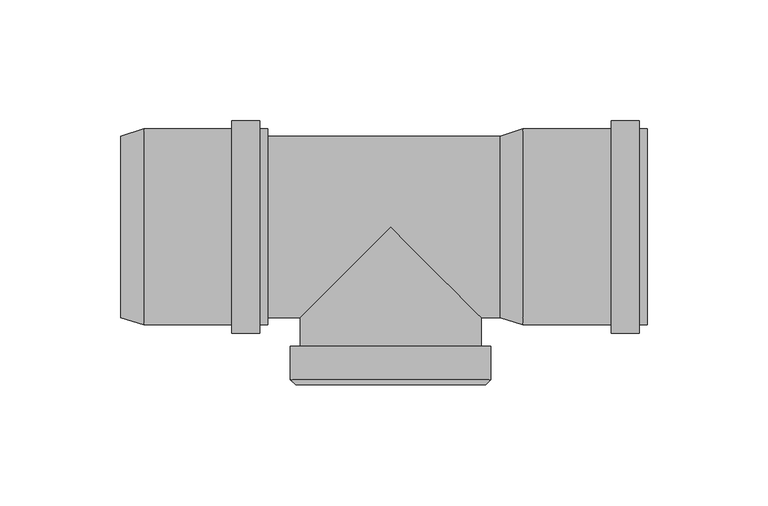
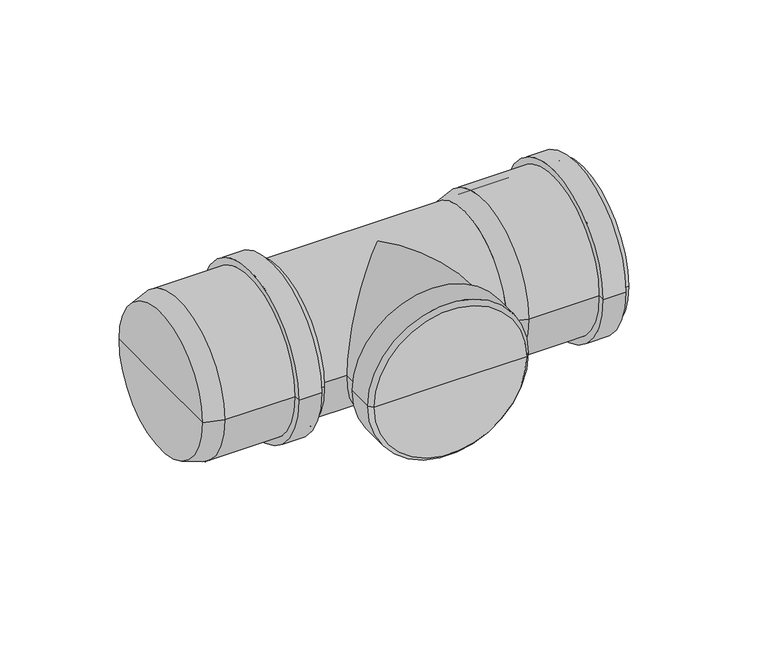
"""IFC4 building model written with IfcOpenShell, lengths in millimetres: pipe fitting geometry, pf_HTRE : pf_HTRE."""

import ifcopenshell
import ifcopenshell.guid

model = None  # the IFC model being written
_history = None  # IfcOwnerHistory: only IFC2X3 demands one
_inside = {}  # id of a spatial element -> (the spatial element, [elements in it])
_under = {}  # id of a project, library or spatial element -> (it, [spatial elements below it])
_declared = {}  # id of a project -> (the project, [libraries it declares])
_typed = {}  # id of a type object -> (the type object, [elements of that type])
_made_of = {}  # id of a material, layer set ... -> (it, [elements and type objects made of it])


def new_model(schema):
    """Start an empty IFC model of exactly this schema.

    Asked for "IFC4X3", IfcOpenShell would pick the latest addendum, in which some entities
    have other attributes; the version numbers below select the first issue.
    IFC2X3 requires an IfcOwnerHistory on every rooted entity: one is made here for all.
    """
    global model, _history
    if schema == "IFC4X3":
        model = ifcopenshell.file(schema_version=(4, 3, 0, 0))
    else:
        model = ifcopenshell.file(schema=schema)
    _inside.clear()
    _under.clear()
    _declared.clear()
    _typed.clear()
    _made_of.clear()
    _history = None
    if model.schema == "IFC2X3":
        org = make("IfcOrganization", Name="unknown")
        user = make(
            "IfcPersonAndOrganization",
            ThePerson=make("IfcPerson", FamilyName="unknown"),
            TheOrganization=org,
        )
        app = make(
            "IfcApplication",
            ApplicationDeveloper=org,
            Version="unknown",
            ApplicationFullName="unknown",
            ApplicationIdentifier="unknown",
        )
        _history = make(
            "IfcOwnerHistory",
            OwningUser=user,
            OwningApplication=app,
            ChangeAction="ADDED",
            CreationDate=0,
        )
    return model


def make(cls, **values):
    """One entity of the class cls with the attributes given. An attribute that is None is left unset."""
    return model.create_entity(
        cls, **{name: value for name, value in values.items() if value is not None}
    )


def rooted(cls, **values):
    """An entity with a GlobalId (a new one), such as an element, a storey or a relation."""
    return make(cls, GlobalId=ifcopenshell.guid.new(), OwnerHistory=_history, **values)


def si_unit(unit_type, name, prefix=None):
    """IfcSIUnit, for example si_unit("LENGTHUNIT", "METRE", prefix="MILLI")."""
    return make("IfcSIUnit", UnitType=unit_type, Prefix=prefix, Name=name)


def assignment(units):
    """IfcUnitAssignment: the units of a project."""
    return None if units is None else make("IfcUnitAssignment", Units=units)


def point(xyz):
    """IfcCartesianPoint."""
    return None if xyz is None else make("IfcCartesianPoint", Coordinates=xyz)


def direction(xyz):
    """IfcDirection."""
    return None if xyz is None else make("IfcDirection", DirectionRatios=xyz)


def frame(location, z_axis=None, x_axis=None):
    """IfcAxis2Placement3D, a coordinate frame: its origin and axes. An axis left out is left unset."""
    return make(
        "IfcAxis2Placement3D",
        Location=point(location),
        Axis=direction(z_axis),
        RefDirection=direction(x_axis),
    )


def origin():
    """The frame at (0, 0, 0) with its axes left unset."""
    return frame((0.0, 0.0, 0.0))


def place(relative_to, where):
    """IfcLocalPlacement: puts the frame where relative to a parent placement (None: the world)."""
    return make(
        "IfcLocalPlacement", PlacementRelTo=relative_to, RelativePlacement=where
    )


def context(
    kind, dimensions, precision=None, world=None, true_north=None, identifier=None
):
    """IfcGeometricRepresentationContext, for example the 3D "Model" context."""
    return make(
        "IfcGeometricRepresentationContext",
        ContextIdentifier=identifier,
        ContextType=kind,
        CoordinateSpaceDimension=dimensions,
        Precision=precision,
        WorldCoordinateSystem=world,
        TrueNorth=true_north,
    )


def project(units=None, contexts=None):
    """IfcProject with its units and contexts."""
    return rooted(
        "IfcProject",
        Name="project",
        RepresentationContexts=contexts,
        UnitsInContext=assignment(units),
    )


def spatial(cls, under=None, at=None, **own):
    """A site, building, storey or space (cls), placed at a placement, below another one or the project."""
    s = rooted(cls, ObjectPlacement=at, **own)
    if under is not None:
        _under.setdefault(under.id(), (under, []))[1].append(s)
    return s


def polyline(points):
    """IfcPolyline through the points."""
    return make("IfcPolyline", Points=[point(p) for p in points])


def circle_curve(where, radius):
    """IfcCircle in the frame where."""
    return make("IfcCircle", Position=where, Radius=radius)


def ellipse_curve(where, semi_axis1, semi_axis2):
    """IfcEllipse in the frame where."""
    return make(
        "IfcEllipse", Position=where, SemiAxis1=semi_axis1, SemiAxis2=semi_axis2
    )


def shape(context_of_items, identifier, shape_type, items):
    """IfcShapeRepresentation: the items that make up one representation, for example the "Body"."""
    return make(
        "IfcShapeRepresentation",
        ContextOfItems=context_of_items,
        RepresentationIdentifier=identifier,
        RepresentationType=shape_type,
        Items=items,
    )


def source(mapping_origin, context_of_items, identifier, shape_type, items):
    """IfcRepresentationMap: a shape defined once, which mapped items show again and again."""
    return make(
        "IfcRepresentationMap",
        MappingOrigin=mapping_origin,
        MappedRepresentation=shape(context_of_items, identifier, shape_type, items),
    )


def transform(
    local_origin,
    x_axis=None,
    y_axis=None,
    z_axis=None,
    scale=None,
    scale2=None,
    scale3=None,
    uniform=True,
):
    """IfcCartesianTransformationOperator3D, or its non-uniform kind. x_axis, y_axis, z_axis: its Axis1, 2, 3."""
    if uniform:
        return make(
            "IfcCartesianTransformationOperator3D",
            Axis1=direction(x_axis),
            Axis2=direction(y_axis),
            LocalOrigin=point(local_origin),
            Scale=scale,
            Axis3=direction(z_axis),
        )
    return make(
        "IfcCartesianTransformationOperator3DnonUniform",
        Axis1=direction(x_axis),
        Axis2=direction(y_axis),
        LocalOrigin=point(local_origin),
        Scale=scale,
        Axis3=direction(z_axis),
        Scale2=scale2,
        Scale3=scale3,
    )


def mapped(mapping_source, mapping_target):
    """IfcMappedItem: shows the shape of a source again, moved by a transform."""
    return make(
        "IfcMappedItem", MappingSource=mapping_source, MappingTarget=mapping_target
    )


def made_of(thing, what):
    """Note that an element or type object is made of a material, layer set ...; save() writes the relation."""
    if what is not None:
        _made_of.setdefault(what.id(), (what, []))[1].append(thing)
    return thing


def element(
    cls,
    number,
    at=None,
    inside=None,
    cuts=None,
    type_object=None,
    material=None,
    context=None,
    identifier="Body",
    shape_type=None,
    held_by="IfcProductDefinitionShape",
    body=None,
    shapes=None,
    **own,
):
    """One element of the class cls, such as IfcWall. Its Tag is "e" and its number.

    at: its placement. inside: the storey or other place that contains it. cuts: it is an
    opening in that element (IfcRelVoidsElement). A single representation is given by context,
    identifier, shape_type and body (its items); several are given by shapes. held_by: the class
    of the entity that holds the representations. save() writes the other relations.
    """
    e = rooted(cls, Tag="e%d" % number, ObjectPlacement=at, **own)
    if body is not None:
        shapes = [shape(context, identifier, shape_type, body)]
    if shapes is not None:
        e.Representation = make(held_by, Representations=shapes)
    if inside is not None:
        _inside.setdefault(inside.id(), (inside, []))[1].append(e)
    if cuts is not None:
        rooted(
            "IfcRelVoidsElement", RelatingBuildingElement=cuts, RelatedOpeningElement=e
        )
    if type_object is not None:
        _typed.setdefault(type_object.id(), (type_object, []))[1].append(e)
    return made_of(e, material)


def aggregate(whole, parts):
    """IfcRelAggregates: a whole, such as a stair, and the parts it consists of."""
    return rooted("IfcRelAggregates", RelatingObject=whole, RelatedObjects=parts)


def save(model, path):
    """Write the relations noted so far, then the file.

    IfcRelAggregates (storeys below a building ...), IfcRelContainedInSpatialStructure (elements
    in a storey), IfcRelDefinesByType, IfcRelAssociatesMaterial and IfcRelDeclares: one each for
    every whole, place, type object, material and project.
    """
    for whole, parts in _under.values():
        aggregate(whole, parts)
    for where, things in _inside.values():
        rooted(
            "IfcRelContainedInSpatialStructure",
            RelatedElements=things,
            RelatingStructure=where,
        )
    for kind, things in _typed.values():
        rooted("IfcRelDefinesByType", RelatedObjects=things, RelatingType=kind)
    for what, things in _made_of.values():
        rooted("IfcRelAssociatesMaterial", RelatedObjects=things, RelatingMaterial=what)
    for by, libraries in _declared.values():
        rooted("IfcRelDeclares", RelatingContext=by, RelatedDefinitions=libraries)
    model.write(path)


def plane_surface(at):
    """IfcPlane: the flat surface through the origin of the frame at, square to its z axis."""
    return make("IfcPlane", Position=at)


def cylinder_surface(at, radius):
    """IfcCylindricalSurface: all points at the distance radius from the z axis of the frame at."""
    return make("IfcCylindricalSurface", Position=at, Radius=radius)


def revolved_surface(curve, axis_point, axis_direction):
    """IfcSurfaceOfRevolution: the curve turned about the line through axis_point along axis_direction."""
    return make(
        "IfcSurfaceOfRevolution",
        SweptCurve=make("IfcArbitraryOpenProfileDef", ProfileType="CURVE", Curve=curve),
        AxisPosition=make("IfcAxis1Placement", Location=point(axis_point), Axis=direction(axis_direction)),
    )


def advanced_brep(points, edges, surfaces, faces):
    """IfcAdvancedBrep: a solid bounded by faces that lie on surfaces and meet in shared edges.

    An edge is (start, end): straight between two places in points (the first is 0);
    or (start, end, curve); or (start, end, curve, False) where it runs against its curve.
    A face is (place in surfaces, loops), or (place, loops, False) where it looks against
    its surface's normal. A loop lists edges by number (the first is 1), with a minus sign
    where the edge is run from its end to its start. The first loop is the outer one.
    """
    corners = [point(p) for p in points]
    vertices = [make("IfcVertexPoint", VertexGeometry=c) for c in corners]
    made = []
    for start, end, *more in edges:
        made.append(
            make(
                "IfcEdgeCurve",
                EdgeStart=vertices[start],
                EdgeEnd=vertices[end],
                EdgeGeometry=more[0] if more else make("IfcPolyline", Points=[corners[start], corners[end]]),
                SameSense=more[1] if len(more) > 1 else True,
            )
        )
    hull = []
    for where, loops, *sense in faces:
        bounds = []
        for j, loop in enumerate(loops):
            ring = [make("IfcOrientedEdge", EdgeElement=made[abs(k) - 1], Orientation=k > 0) for k in loop]
            bounds.append(
                make(
                    "IfcFaceOuterBound" if j == 0 else "IfcFaceBound",
                    Bound=make("IfcEdgeLoop", EdgeList=ring),
                    Orientation=True,
                )
            )
        hull.append(make("IfcAdvancedFace", Bounds=bounds, FaceSurface=surfaces[where], SameSense=sense[0] if sense else True))
    return make("IfcAdvancedBrep", Outer=make("IfcClosedShell", CfsFaces=hull))


def pipe_fitting_7ade68ef(model_context):
    return source(origin(), model_context, "Body", "AdvancedBrep", [
        advanced_brep(
        [(45.3, -37.5, 0.0), (45.3, 37.5, 0.0), (54.8, 40.6, 0.0), (54.8, -40.6, 0.0), (45.3, 0.0, 0.0), (106.3, -40.6, 0.0), (106.3, 40.6, 0.0), (106.3, 37.5, 0.0), (106.3, -37.5, 0.0), (102.9, -40.6, 0.0), (102.9, 40.6, 0.0), (102.9, -44.0, 0.0), (102.9, 44.0, 0.0), (91.3, -44.0, 0.0), (91.3, 44.0, 0.0), (91.3, -40.6, 0.0), (91.3, 40.6, 0.0), (54.8, -37.5, 0.0), (54.8, 37.5, 0.0), (54.8, 0.0, 0.0)],
        [
            (0, 1, circle_curve(frame((45.3, 0.0, 0.0), z_axis=(1.0, 0.0, 0.0), x_axis=(0.0, 1.0, 0.0)), 37.5)),
            (1, 2),
            (2, 3, circle_curve(frame((54.8, 0.0, 0.0), z_axis=(-1.0, 0.0, 0.0), x_axis=(0.0, 1.0, 0.0)), 40.6)),
            (3, 0),
            (1, 0, circle_curve(frame((45.3, 0.0, 0.0), z_axis=(1.0, 0.0, 0.0), x_axis=(0.0, 1.0, 0.0)), 37.5)),
            (3, 2, circle_curve(frame((54.8, 0.0, 0.0), z_axis=(-1.0, 0.0, 0.0), x_axis=(0.0, 1.0, 0.0)), 40.6)),
            (4, 1),
            (0, 4),
            (5, 6, circle_curve(frame((106.3, 0.0, 0.0), z_axis=(1.0, 0.0, 0.0), x_axis=(0.0, 1.0, 0.0)), 40.6)),
            (6, 7),
            (7, 8, circle_curve(frame((106.3, 0.0, 0.0), z_axis=(-1.0, 0.0, 0.0), x_axis=(0.0, 1.0, 0.0)), 37.5)),
            (8, 5),
            (6, 5, circle_curve(frame((106.3, 0.0, 0.0), z_axis=(1.0, 0.0, 0.0), x_axis=(0.0, 1.0, 0.0)), 40.6)),
            (8, 7, circle_curve(frame((106.3, 0.0, 0.0), z_axis=(-1.0, 0.0, 0.0), x_axis=(0.0, 1.0, 0.0)), 37.5)),
            (9, 10, circle_curve(frame((102.9, 0.0, 0.0), z_axis=(1.0, 0.0, 0.0), x_axis=(0.0, 1.0, 0.0)), 40.6)),
            (10, 6),
            (5, 9),
            (10, 9, circle_curve(frame((102.9, 0.0, 0.0), z_axis=(1.0, 0.0, 0.0), x_axis=(0.0, 1.0, 0.0)), 40.6)),
            (11, 12, circle_curve(frame((102.9, 0.0, 0.0), z_axis=(1.0, 0.0, 0.0), x_axis=(0.0, 1.0, 0.0)), 44.0)),
            (12, 10),
            (9, 11),
            (12, 11, circle_curve(frame((102.9, 0.0, 0.0), z_axis=(1.0, 0.0, 0.0), x_axis=(0.0, 1.0, 0.0)), 44.0)),
            (13, 14, circle_curve(frame((91.3, 0.0, 0.0), z_axis=(1.0, 0.0, 0.0), x_axis=(0.0, 1.0, 0.0)), 44.0)),
            (14, 12),
            (11, 13),
            (14, 13, circle_curve(frame((91.3, 0.0, 0.0), z_axis=(1.0, 0.0, 0.0), x_axis=(0.0, 1.0, 0.0)), 44.0)),
            (15, 16, circle_curve(frame((91.3, 0.0, 0.0), z_axis=(1.0, 0.0, 0.0), x_axis=(0.0, 1.0, 0.0)), 40.6)),
            (16, 14),
            (13, 15),
            (16, 15, circle_curve(frame((91.3, 0.0, 0.0), z_axis=(1.0, 0.0, 0.0), x_axis=(0.0, 1.0, 0.0)), 40.6)),
            (2, 16),
            (15, 3),
            (17, 18, circle_curve(frame((54.8, 0.0, 0.0), z_axis=(1.0, 0.0, 0.0), x_axis=(0.0, 1.0, 0.0)), 37.5)),
            (18, 19),
            (19, 17),
            (18, 17, circle_curve(frame((54.8, 0.0, 0.0), z_axis=(1.0, 0.0, 0.0), x_axis=(0.0, 1.0, 0.0)), 37.5)),
            (7, 18),
            (17, 8),
        ],
        [
            revolved_surface(polyline([(54.8, 40.6, 0.0), (45.3, 37.5, 0.0)]), (45.3, 0.0, 0.0), (-1.0, 0.0, 0.0)),
            plane_surface(frame((45.3, 0.0, 0.0), z_axis=(-1.0, 0.0, 0.0), x_axis=(0.0, 1.0, 0.0))),
            plane_surface(frame((106.3, 0.0, 0.0), z_axis=(1.0, 0.0, 0.0), x_axis=(0.0, 1.0, 0.0))),
            cylinder_surface(frame((45.3, 0.0, 0.0), z_axis=(-1.0, 0.0, 0.0), x_axis=(0.0, 1.0, 0.0)), 40.6),
            plane_surface(frame((102.9, 0.0, 0.0), z_axis=(1.0, 0.0, 0.0), x_axis=(0.0, 1.0, 0.0))),
            cylinder_surface(frame((45.3, 0.0, 0.0), z_axis=(-1.0, 0.0, 0.0), x_axis=(0.0, 1.0, 0.0)), 44.0),
            plane_surface(frame((91.3, 0.0, 0.0), z_axis=(-1.0, 0.0, 0.0), x_axis=(0.0, 1.0, 0.0))),
            plane_surface(frame((54.8, 0.0, 0.0), z_axis=(1.0, 0.0, 0.0), x_axis=(0.0, 1.0, 0.0))),
            revolved_surface(polyline([(54.8, 37.5, 0.0), (106.3, 37.5, 0.0)]), (45.3, 0.0, 0.0), (-1.0, 0.0, 0.0)),
        ],
        [
            (0, [[1, 2, 3, 4]]),
            (0, [[5, -4, 6, -2]]),
            (1, [[7, -1, 8]]),
            (1, [[-8, -5, -7]]),
            (2, [[9, 10, 11, 12]]),
            (2, [[13, -12, 14, -10]]),
            (3, [[15, 16, -9, 17]]),
            (3, [[18, -17, -13, -16]]),
            (4, [[19, 20, -15, 21]]),
            (4, [[22, -21, -18, -20]]),
            (5, [[23, 24, -19, 25]]),
            (5, [[26, -25, -22, -24]]),
            (6, [[27, 28, -23, 29]]),
            (6, [[30, -29, -26, -28]]),
            (3, [[-3, 31, -27, 32]]),
            (3, [[-6, -32, -30, -31]]),
            (7, [[33, 34, 35]]),
            (7, [[36, -35, -34]]),
            (8, [[-11, 37, -33, 38]]),
            (8, [[-14, -38, -36, -37]]),
        ],
    ),
        advanced_brep(
        [(-111.8, -37.5, 0.0), (-111.8, 37.5, 0.0), (-102.3, 40.6, 0.0), (-102.3, -40.6, 0.0), (-111.8, 0.0, 0.0), (-50.8, -40.6, 0.0), (-50.8, 40.6, 0.0), (-50.8, 37.5, 0.0), (-50.8, -37.5, 0.0), (-54.2, -40.6, 0.0), (-54.2, 40.6, 0.0), (-54.2, -44.0, 0.0), (-54.2, 44.0, 0.0), (-65.8, -44.0, 0.0), (-65.8, 44.0, 0.0), (-65.8, -40.6, 0.0), (-65.8, 40.6, 0.0), (-102.3, -37.5, 0.0), (-102.3, 37.5, 0.0), (-102.3, 0.0, 0.0)],
        [
            (0, 1, circle_curve(frame((-111.8, 0.0, 0.0), z_axis=(1.0, 0.0, 0.0), x_axis=(0.0, 1.0, 0.0)), 37.5)),
            (1, 2),
            (2, 3, circle_curve(frame((-102.3, 0.0, 0.0), z_axis=(-1.0, 0.0, 0.0), x_axis=(0.0, 1.0, 0.0)), 40.6)),
            (3, 0),
            (1, 0, circle_curve(frame((-111.8, 0.0, 0.0), z_axis=(1.0, 0.0, 0.0), x_axis=(0.0, 1.0, 0.0)), 37.5)),
            (3, 2, circle_curve(frame((-102.3, 0.0, 0.0), z_axis=(-1.0, 0.0, 0.0), x_axis=(0.0, 1.0, 0.0)), 40.6)),
            (4, 1),
            (0, 4),
            (5, 6, circle_curve(frame((-50.8, 0.0, 0.0), z_axis=(1.0, 0.0, 0.0), x_axis=(0.0, 1.0, 0.0)), 40.6)),
            (6, 7),
            (7, 8, circle_curve(frame((-50.8, 0.0, 0.0), z_axis=(-1.0, 0.0, 0.0), x_axis=(0.0, 1.0, 0.0)), 37.5)),
            (8, 5),
            (6, 5, circle_curve(frame((-50.8, 0.0, 0.0), z_axis=(1.0, 0.0, 0.0), x_axis=(0.0, 1.0, 0.0)), 40.6)),
            (8, 7, circle_curve(frame((-50.8, 0.0, 0.0), z_axis=(-1.0, 0.0, 0.0), x_axis=(0.0, 1.0, 0.0)), 37.5)),
            (9, 10, circle_curve(frame((-54.2, 0.0, 0.0), z_axis=(1.0, 0.0, 0.0), x_axis=(0.0, 1.0, 0.0)), 40.6)),
            (10, 6),
            (5, 9),
            (10, 9, circle_curve(frame((-54.2, 0.0, 0.0), z_axis=(1.0, 0.0, 0.0), x_axis=(0.0, 1.0, 0.0)), 40.6)),
            (11, 12, circle_curve(frame((-54.2, 0.0, 0.0), z_axis=(1.0, 0.0, 0.0), x_axis=(0.0, 1.0, 0.0)), 44.0)),
            (12, 10),
            (9, 11),
            (12, 11, circle_curve(frame((-54.2, 0.0, 0.0), z_axis=(1.0, 0.0, 0.0), x_axis=(0.0, 1.0, 0.0)), 44.0)),
            (13, 14, circle_curve(frame((-65.8, 0.0, 0.0), z_axis=(1.0, 0.0, 0.0), x_axis=(0.0, 1.0, 0.0)), 44.0)),
            (14, 12),
            (11, 13),
            (14, 13, circle_curve(frame((-65.8, 0.0, 0.0), z_axis=(1.0, 0.0, 0.0), x_axis=(0.0, 1.0, 0.0)), 44.0)),
            (15, 16, circle_curve(frame((-65.8, 0.0, 0.0), z_axis=(1.0, 0.0, 0.0), x_axis=(0.0, 1.0, 0.0)), 40.6)),
            (16, 14),
            (13, 15),
            (16, 15, circle_curve(frame((-65.8, 0.0, 0.0), z_axis=(1.0, 0.0, 0.0), x_axis=(0.0, 1.0, 0.0)), 40.6)),
            (2, 16),
            (15, 3),
            (17, 18, circle_curve(frame((-102.3, 0.0, 0.0), z_axis=(1.0, 0.0, 0.0), x_axis=(0.0, 1.0, 0.0)), 37.5)),
            (18, 19),
            (19, 17),
            (18, 17, circle_curve(frame((-102.3, 0.0, 0.0), z_axis=(1.0, 0.0, 0.0), x_axis=(0.0, 1.0, 0.0)), 37.5)),
            (7, 18),
            (17, 8),
        ],
        [
            revolved_surface(polyline([(-102.3, 40.6, 0.0), (-111.8, 37.5, 0.0)]), (-111.8, 0.0, 0.0), (-1.0, 0.0, 0.0)),
            plane_surface(frame((-111.8, 0.0, 0.0), z_axis=(-1.0, 0.0, 0.0), x_axis=(0.0, 1.0, 0.0))),
            plane_surface(frame((-50.8, 0.0, 0.0), z_axis=(1.0, 0.0, 0.0), x_axis=(0.0, 1.0, 0.0))),
            cylinder_surface(frame((-111.8, 0.0, 0.0), z_axis=(-1.0, 0.0, 0.0), x_axis=(0.0, 1.0, 0.0)), 40.6),
            plane_surface(frame((-54.2, 0.0, 0.0), z_axis=(1.0, 0.0, 0.0), x_axis=(0.0, 1.0, 0.0))),
            cylinder_surface(frame((-111.8, 0.0, 0.0), z_axis=(-1.0, 0.0, 0.0), x_axis=(0.0, 1.0, 0.0)), 44.0),
            plane_surface(frame((-65.8, 0.0, 0.0), z_axis=(-1.0, 0.0, 0.0), x_axis=(0.0, 1.0, 0.0))),
            plane_surface(frame((-102.3, 0.0, 0.0), z_axis=(1.0, 0.0, 0.0), x_axis=(0.0, 1.0, 0.0))),
            revolved_surface(polyline([(-102.3, 37.5, 0.0), (-50.8, 37.5, 0.0)]), (-111.8, 0.0, 0.0), (-1.0, 0.0, 0.0)),
        ],
        [
            (0, [[1, 2, 3, 4]]),
            (0, [[5, -4, 6, -2]]),
            (1, [[7, -1, 8]]),
            (1, [[-8, -5, -7]]),
            (2, [[9, 10, 11, 12]]),
            (2, [[13, -12, 14, -10]]),
            (3, [[15, 16, -9, 17]]),
            (3, [[18, -17, -13, -16]]),
            (4, [[19, 20, -15, 21]]),
            (4, [[22, -21, -18, -20]]),
            (5, [[23, 24, -19, 25]]),
            (5, [[26, -25, -22, -24]]),
            (6, [[27, 28, -23, 29]]),
            (6, [[30, -29, -26, -28]]),
            (3, [[-3, 31, -27, 32]]),
            (3, [[-6, -32, -30, -31]]),
            (7, [[33, 34, 35]]),
            (7, [[36, -35, -34]]),
            (8, [[-11, 37, -33, 38]]),
            (8, [[-14, -38, -36, -37]]),
        ],
    ),
        advanced_brep(
        [(0.0, -60.9, 0.0), (37.5, -60.9, 0.0), (-37.5, -60.9, 0.0), (-39.3547233, -65.3866797, 0.0), (39.3547233, -65.3866797, 0.0), (0.0, -65.3866797, 0.0), (-41.5, -63.241403, 0.0), (41.5, -63.241403, 0.0), (-41.5, -49.31835, 0.0), (41.5, -49.31835, 0.0), (-37.5, -49.31835, 0.0), (37.5, -49.31835, 0.0)],
        [
            (0, 1),
            (1, 2, circle_curve(frame((0.0, -60.9, 0.0), z_axis=(0.0, 1.0, 0.0), x_axis=(1.0, 0.0, 0.0)), 37.5)),
            (2, 0),
            (2, 1, circle_curve(frame((0.0, -60.9, 0.0), z_axis=(0.0, 1.0, 0.0), x_axis=(1.0, 0.0, 0.0)), 37.5)),
            (3, 4, circle_curve(frame((0.0, -65.3866797, 0.0), z_axis=(0.0, -1.0, 0.0), x_axis=(1.0, 0.0, 0.0)), 39.3547233)),
            (4, 5),
            (5, 3),
            (4, 3, circle_curve(frame((0.0, -65.3866797, 0.0), z_axis=(0.0, -1.0, 0.0), x_axis=(1.0, 0.0, 0.0)), 39.3547233)),
            (6, 7, circle_curve(frame((0.0, -63.241403, 0.0), z_axis=(0.0, -1.0, 0.0), x_axis=(1.0, 0.0, 0.0)), 41.5)),
            (7, 4),
            (3, 6),
            (7, 6, circle_curve(frame((0.0, -63.241403, 0.0), z_axis=(0.0, -1.0, 0.0), x_axis=(1.0, 0.0, 0.0)), 41.5)),
            (8, 9, circle_curve(frame((0.0, -49.31835, 0.0), z_axis=(0.0, -1.0, 0.0), x_axis=(1.0, 0.0, 0.0)), 41.5)),
            (9, 7),
            (6, 8),
            (9, 8, circle_curve(frame((0.0, -49.31835, 0.0), z_axis=(0.0, -1.0, 0.0), x_axis=(1.0, 0.0, 0.0)), 41.5)),
            (10, 11, circle_curve(frame((0.0, -49.31835, 0.0), z_axis=(0.0, -1.0, 0.0), x_axis=(1.0, 0.0, 0.0)), 37.5)),
            (11, 9),
            (8, 10),
            (11, 10, circle_curve(frame((0.0, -49.31835, 0.0), z_axis=(0.0, -1.0, 0.0), x_axis=(1.0, 0.0, 0.0)), 37.5)),
            (1, 11),
            (10, 2),
        ],
        [
            plane_surface(frame((0.0, -60.9, 0.0), z_axis=(0.0, 1.0, 0.0), x_axis=(1.0, 0.0, 0.0))),
            plane_surface(frame((0.0, -65.3866797, 0.0), z_axis=(0.0, -1.0, 0.0), x_axis=(1.0, 0.0, 0.0))),
            revolved_surface(polyline([(39.3547233, -65.3866797, 0.0), (41.5, -63.241403, 0.0)]), (0.0, 0.0, 0.0), (0.0, 1.0, 0.0)),
            cylinder_surface(frame((0.0, 0.0, 0.0), z_axis=(0.0, 1.0, 0.0), x_axis=(1.0, 0.0, 0.0)), 41.5),
            plane_surface(frame((0.0, -49.31835, 0.0), z_axis=(0.0, 1.0, 0.0), x_axis=(1.0, 0.0, 0.0))),
            revolved_surface(polyline([(37.5, -49.31835, 0.0), (37.5, -60.9, 0.0)]), (0.0, 0.0, 0.0), (0.0, 1.0, 0.0)),
        ],
        [
            (0, [[1, 2, 3]]),
            (0, [[-3, 4, -1]]),
            (1, [[5, 6, 7]]),
            (1, [[8, -7, -6]]),
            (2, [[9, 10, -5, 11]]),
            (2, [[12, -11, -8, -10]]),
            (3, [[13, 14, -9, 15]]),
            (3, [[16, -15, -12, -14]]),
            (4, [[17, 18, -13, 19]]),
            (4, [[20, -19, -16, -18]]),
            (5, [[-2, 21, -17, 22]]),
            (5, [[-4, -22, -20, -21]]),
        ],
    ),
        advanced_brep(
        [(-50.8, -37.5, 0.0), (-50.8, 37.5, 0.0), (45.3, -37.5, 0.0), (45.3, 37.5, 0.0), (-37.5, -37.5, 0.0), (0.0, 0.0, 37.5), (37.5, -37.5, 0.0), (0.0, 0.0, -37.5), (-37.5, -60.9, 0.0), (37.5, -60.9, 0.0)],
        [
            (0, 1, circle_curve(frame((-50.8, 0.0, 0.0), z_axis=(-1.0, 0.0, 0.0), x_axis=(0.0, 1.0, 0.0)), 37.5)),
            (1, 0, circle_curve(frame((-50.8, 0.0, 0.0), z_axis=(-1.0, 0.0, 0.0), x_axis=(0.0, 1.0, 0.0)), 37.5)),
            (2, 3, circle_curve(frame((45.3, 0.0, 0.0), z_axis=(1.0, 0.0, 0.0), x_axis=(0.0, 1.0, 0.0)), 37.5)),
            (3, 2, circle_curve(frame((45.3, 0.0, 0.0), z_axis=(1.0, 0.0, 0.0), x_axis=(0.0, 1.0, 0.0)), 37.5)),
            (0, 4),
            (4, 5, ellipse_curve(frame((0.0, 0.0, 0.0), z_axis=(-0.7071067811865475, 0.7071067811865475, 0.0), x_axis=(-0.7071067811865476, -0.7071067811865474, 0.0)), 53.0330086, 37.5)),
            (5, 6, ellipse_curve(frame((0.0, 0.0, 0.0), z_axis=(0.7071067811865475, 0.7071067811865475, 0.0), x_axis=(-0.7071067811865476, 0.7071067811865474, 0.0)), 53.0330086, 37.5)),
            (6, 2),
            (3, 1),
            (6, 7, ellipse_curve(frame((0.0, 0.0, 0.0), z_axis=(0.7071067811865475, 0.7071067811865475, 0.0), x_axis=(-0.7071067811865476, 0.7071067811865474, 0.0)), 53.0330086, 37.5)),
            (7, 4, ellipse_curve(frame((0.0, 0.0, 0.0), z_axis=(-0.7071067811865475, 0.7071067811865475, 0.0), x_axis=(-0.7071067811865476, -0.7071067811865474, 0.0)), 53.0330086, 37.5)),
            (8, 9, circle_curve(frame((0.0, -60.9, 0.0), z_axis=(0.0, -1.0, 0.0), x_axis=(1.0, 0.0, 0.0)), 37.5)),
            (9, 8, circle_curve(frame((0.0, -60.9, 0.0), z_axis=(0.0, -1.0, 0.0), x_axis=(1.0, 0.0, 0.0)), 37.5)),
            (9, 6),
            (4, 8),
        ],
        [
            plane_surface(frame((-50.8, 0.0, 0.0), z_axis=(-1.0, 0.0, 0.0), x_axis=(0.0, 0.0, 1.0))),
            plane_surface(frame((45.3, 0.0, 0.0), z_axis=(1.0, 0.0, 0.0), x_axis=(0.0, 0.0, 1.0))),
            cylinder_surface(frame((-50.8, 0.0, 0.0), z_axis=(-1.0, 0.0, 0.0), x_axis=(0.0, 1.0, 0.0)), 37.5),
            plane_surface(frame((0.0, -60.9, 0.0), z_axis=(0.0, -1.0, 0.0), x_axis=(0.0, 0.0, 1.0))),
            cylinder_surface(frame((0.0, 0.0, 0.0), z_axis=(0.0, 1.0, 0.0), x_axis=(1.0, 0.0, 0.0)), 37.5),
        ],
        [
            (0, [[1, 2]]),
            (1, [[3, 4]]),
            (2, [[-1, 5, 6, 7, 8, -4, 9]]),
            (2, [[-2, -9, -3, -8, 10, 11, -5]]),
            (3, [[12, 13]]),
            (4, [[-13, 14, -7, -6, 15]]),
            (4, [[-12, -15, -11, -10, -14]]),
        ],
    ),
    ])


if __name__ == "__main__":
    model = new_model("IFC4")
    model_context = context("Model", 3, world=origin())
    ifc_project = project(units=[si_unit("LENGTHUNIT", "METRE", prefix="MILLI")], contexts=[model_context])
    site = spatial("IfcSite", under=ifc_project)
    building = spatial("IfcBuilding", under=site)
    placement = place(None, origin())
    pipe_fitting_shape = pipe_fitting_7ade68ef(model_context)
    element("IfcPipeFitting", 1, ObjectType="pf_HTRE : pf_HTRE", at=placement, inside=building, context=model_context, shape_type="MappedRepresentation", body=[
        mapped(pipe_fitting_shape, transform((0.0, 0.0, 0.0), x_axis=(1.0, 0.0, 0.0), y_axis=(0.0, 1.0, 0.0), z_axis=(0.0, 0.0, 1.0))),
    ])
    save(model, "model.ifc")
